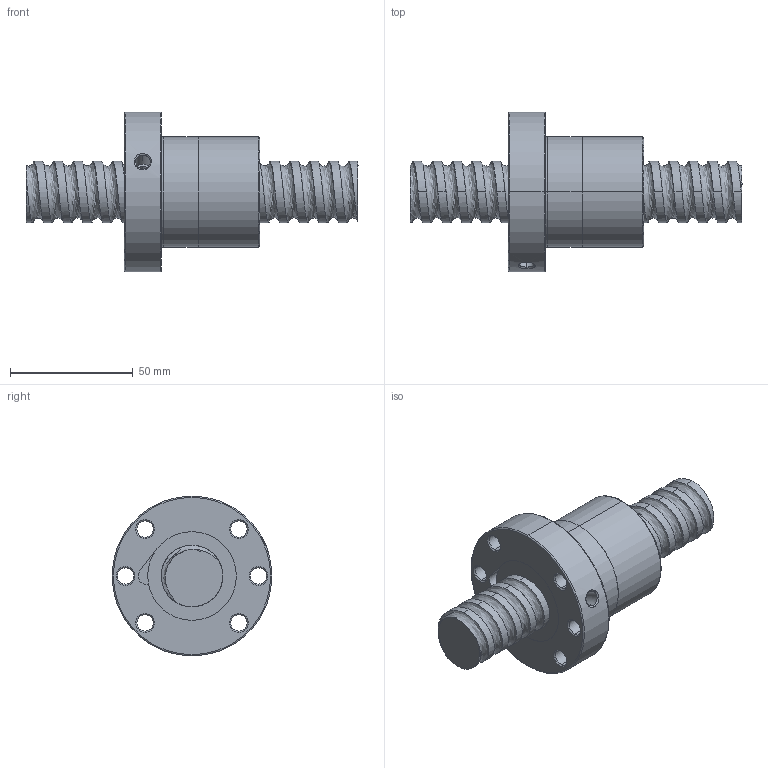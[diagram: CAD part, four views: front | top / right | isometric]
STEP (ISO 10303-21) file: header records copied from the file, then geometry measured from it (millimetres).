
FILE_DESCRIPTION (( 'STEP AP214' ), '1' );
FILE_NAME ('FSDC02508T4-D-A.STEP', '2010-06-25T11:31:08', ( 'XPAUTO' ), ( 'XPAUTO' ), 'SwSTEP 2.0', 'SolidWorks 2007', '' );
FILE_SCHEMA (( 'AUTOMOTIVE_DESIGN' ));
Length unit declared in the file: millimetre
Products named in the file (3): FSDC02508T4-D-A.sldasm-Part-2_預設; FSDC02508T4-D-A; FSDC02508T4-D-A.sldasm-Part-1_預設
Assembly tree (2 placements, depth 2):
  FSDC02508T4-D-A
    FSDC02508T4-D-A.sldasm-Part-1_預設
    FSDC02508T4-D-A.sldasm-Part-2_預設
Bounding box: 135 x 65 x 65 mm (x, y, z)
Volume: 140015.9 mm3; surface area: 34018.2 mm2
Topology: 2 solids, 2 shells, 123 faces, 307 edges, 193 vertices
Faces by surface type: cylinder 72, cone 24, plane 16, torus 6, bspline 5
Entity records: 25587 total; most frequent: CARTESIAN_POINT 22641, ORIENTED_EDGE 614, DIRECTION 575, EDGE_CURVE 307, AXIS2_PLACEMENT_3D 236, VERTEX_POINT 193, EDGE_LOOP 144, FACE_OUTER_BOUND 123
